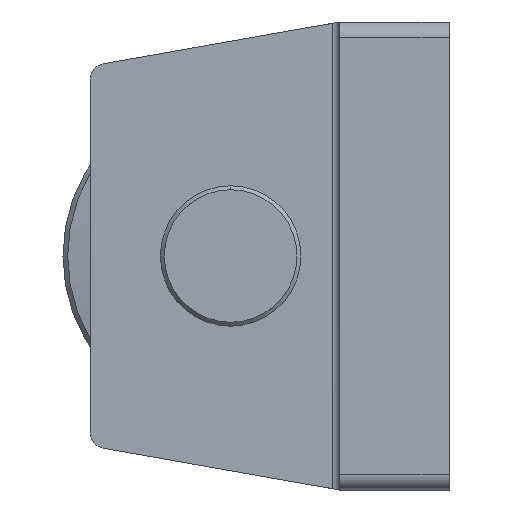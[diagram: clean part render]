
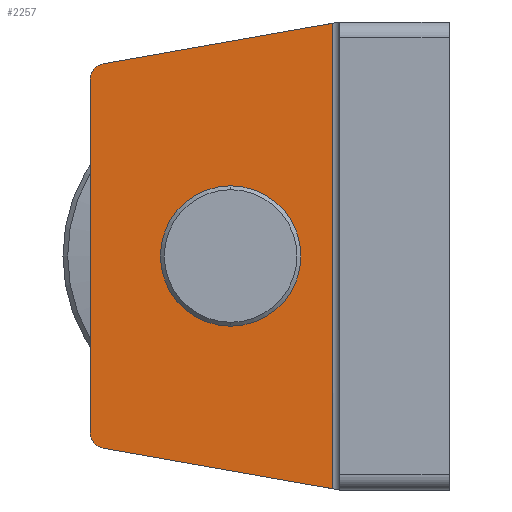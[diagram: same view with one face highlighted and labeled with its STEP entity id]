
A CAD part, left-side view. The second image highlights one B-rep face of the part: STEP entity #2257.
In plain terms, the highlighted planar face has unit normal (-1, 0, 0).
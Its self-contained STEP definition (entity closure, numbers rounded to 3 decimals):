
#16 = CARTESIAN_POINT ( 'NONE',  ( -14., 28., 0. ) ) ;
#79 = VERTEX_POINT ( 'NONE', #1287 ) ;
#127 = DIRECTION ( 'NONE',  ( 1., 0., 0. ) ) ;
#220 = EDGE_CURVE ( 'NONE', #850, #1920, #1328, .T. ) ;
#313 = DIRECTION ( 'NONE',  ( 0., 1., 0. ) ) ;
#355 = ORIENTED_EDGE ( 'NONE', *, *, #1779, .T. ) ;
#365 = AXIS2_PLACEMENT_3D ( 'NONE', #385, #634, #313 ) ;
#366 = AXIS2_PLACEMENT_3D ( 'NONE', #16, #127, #1140 ) ;
#384 = FACE_OUTER_BOUND ( 'NONE', #427, .T. ) ;
#385 = CARTESIAN_POINT ( 'NONE',  ( -14., 28., 0. ) ) ;
#396 = DIRECTION ( 'NONE',  ( 0., -0.985, -0.174 ) ) ;
#427 = EDGE_LOOP ( 'NONE', ( #2144, #2372, #355, #637, #1235, #2325 ) ) ;
#431 = ORIENTED_EDGE ( 'NONE', *, *, #2291, .T. ) ;
#462 = VERTEX_POINT ( 'NONE', #1252 ) ;
#504 = ORIENTED_EDGE ( 'NONE', *, *, #1066, .T. ) ;
#544 = PLANE ( 'NONE',  #2331 ) ;
#575 = CIRCLE ( 'NONE', #2367, 2. ) ;
#623 = DIRECTION ( 'NONE',  ( -1., 0., 0. ) ) ;
#634 = DIRECTION ( 'NONE',  ( 1., 0., 0. ) ) ;
#636 = DIRECTION ( 'NONE',  ( -1., 0., 0. ) ) ;
#637 = ORIENTED_EDGE ( 'NONE', *, *, #2302, .T. ) ;
#681 = DIRECTION ( 'NONE',  ( 1., 0., 0. ) ) ;
#692 = VERTEX_POINT ( 'NONE', #1887 ) ;
#742 = LINE ( 'NONE', #1437, #1969 ) ;
#770 = CARTESIAN_POINT ( 'NONE',  ( -14., 25.23, -28.02 ) ) ;
#803 = FACE_BOUND ( 'NONE', #1628, .T. ) ;
#850 = VERTEX_POINT ( 'NONE', #1977 ) ;
#881 = CARTESIAN_POINT ( 'NONE',  ( -14., 44., 22.679 ) ) ;
#906 = VECTOR ( 'NONE', #396, 1000. ) ;
#1031 = LINE ( 'NONE', #2406, #1386 ) ;
#1066 = EDGE_CURVE ( 'NONE', #1585, #462, #1953, .T. ) ;
#1111 = CIRCLE ( 'NONE', #1371, 2. ) ;
#1140 = DIRECTION ( 'NONE',  ( 0., 1., 0. ) ) ;
#1235 = ORIENTED_EDGE ( 'NONE', *, *, #1459, .T. ) ;
#1252 = CARTESIAN_POINT ( 'NONE',  ( -14., 28., 9. ) ) ;
#1287 = CARTESIAN_POINT ( 'NONE',  ( -14., 46., 22.679 ) ) ;
#1304 = CARTESIAN_POINT ( 'NONE',  ( -14., 15., -29.824 ) ) ;
#1305 = CIRCLE ( 'NONE', #365, 9. ) ;
#1328 = LINE ( 'NONE', #1996, #2305 ) ;
#1343 = DIRECTION ( 'NONE',  ( 0., 0., -1. ) ) ;
#1371 = AXIS2_PLACEMENT_3D ( 'NONE', #2065, #636, #2288 ) ;
#1386 = VECTOR ( 'NONE', #1343, 1000. ) ;
#1437 = CARTESIAN_POINT ( 'NONE',  ( -14., 15., 30. ) ) ;
#1459 = EDGE_CURVE ( 'NONE', #2118, #1746, #1860, .T. ) ;
#1476 = CARTESIAN_POINT ( 'NONE',  ( -14., 44.347, 24.649 ) ) ;
#1585 = VERTEX_POINT ( 'NONE', #1710 ) ;
#1628 = EDGE_LOOP ( 'NONE', ( #431, #504 ) ) ;
#1710 = CARTESIAN_POINT ( 'NONE',  ( -14., 28., -9. ) ) ;
#1739 = CARTESIAN_POINT ( 'NONE',  ( -14., 15., 30. ) ) ;
#1746 = VERTEX_POINT ( 'NONE', #1304 ) ;
#1775 = EDGE_CURVE ( 'NONE', #1920, #79, #575, .T. ) ;
#1779 = EDGE_CURVE ( 'NONE', #79, #692, #1031, .T. ) ;
#1860 = LINE ( 'NONE', #770, #906 ) ;
#1887 = CARTESIAN_POINT ( 'NONE',  ( -14., 46., -22.679 ) ) ;
#1920 = VERTEX_POINT ( 'NONE', #1476 ) ;
#1953 = CIRCLE ( 'NONE', #366, 9. ) ;
#1969 = VECTOR ( 'NONE', #2046, 1000. ) ;
#1977 = CARTESIAN_POINT ( 'NONE',  ( -14., 15., 29.824 ) ) ;
#1996 = CARTESIAN_POINT ( 'NONE',  ( -14., 14.97, 29.829 ) ) ;
#2030 = EDGE_CURVE ( 'NONE', #850, #1746, #742, .T. ) ;
#2046 = DIRECTION ( 'NONE',  ( 0., 0., -1. ) ) ;
#2063 = DIRECTION ( 'NONE',  ( 0., 1., 0. ) ) ;
#2065 = CARTESIAN_POINT ( 'NONE',  ( -14., 44., -22.679 ) ) ;
#2117 = DIRECTION ( 'NONE',  ( 0., 0.985, -0.174 ) ) ;
#2118 = VERTEX_POINT ( 'NONE', #2207 ) ;
#2144 = ORIENTED_EDGE ( 'NONE', *, *, #220, .T. ) ;
#2207 = CARTESIAN_POINT ( 'NONE',  ( -14., 44.347, -24.649 ) ) ;
#2257 = ADVANCED_FACE ( 'NONE', ( #803, #384 ), #544, .F. ) ;
#2281 = DIRECTION ( 'NONE',  ( 0., 1., 0. ) ) ;
#2288 = DIRECTION ( 'NONE',  ( 0., 1., 0. ) ) ;
#2291 = EDGE_CURVE ( 'NONE', #462, #1585, #1305, .T. ) ;
#2302 = EDGE_CURVE ( 'NONE', #692, #2118, #1111, .T. ) ;
#2305 = VECTOR ( 'NONE', #2117, 1000. ) ;
#2325 = ORIENTED_EDGE ( 'NONE', *, *, #2030, .F. ) ;
#2331 = AXIS2_PLACEMENT_3D ( 'NONE', #1739, #681, #2063 ) ;
#2367 = AXIS2_PLACEMENT_3D ( 'NONE', #881, #623, #2281 ) ;
#2372 = ORIENTED_EDGE ( 'NONE', *, *, #1775, .T. ) ;
#2406 = CARTESIAN_POINT ( 'NONE',  ( -14., 46., 30. ) ) ;
